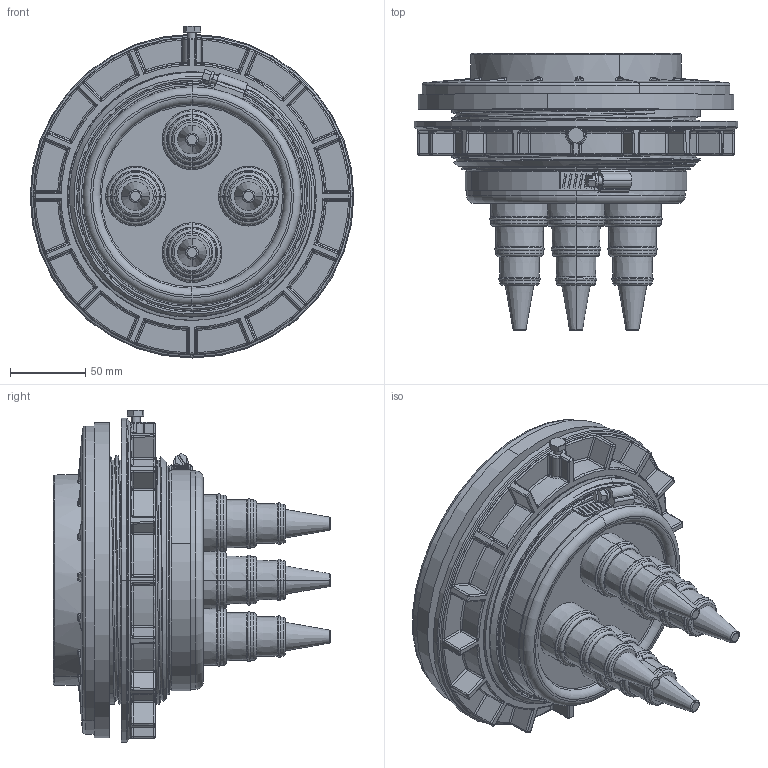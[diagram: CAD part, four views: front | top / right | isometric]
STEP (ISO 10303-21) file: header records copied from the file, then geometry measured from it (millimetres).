
FILE_DESCRIPTION (( 'STEP AP203' ), '1' );
FILE_NAME ('KPTM_32-15.step', '2011-08-08T11:44:11', ( '' ), ( '' ), 'SwSTEP 2.0', 'SolidWorks 2011', '' );
FILE_SCHEMA (( 'CONFIG_CONTROL_DESIGN' ));
Products named in the file (1): KPTM_32-15
Bounding box: 215 x 183.99 x 220.5 mm (x, y, z)
Volume: 979317.2 mm3; surface area: 346160 mm2
Topology: 1 solids, 1 shells, 2011 faces, 4713 edges, 2522 vertices
Faces by surface type: bspline 564, torus 375, cylinder 337, plane 325, sphere 252, cone 158
Entity records: 75730 total; most frequent: CARTESIAN_POINT 35020, ORIENTED_EDGE 8970, DIRECTION 8334, EDGE_CURVE 4485, AXIS2_PLACEMENT_3D 3731, VERTEX_POINT 2522, CIRCLE 2283, EDGE_LOOP 2065
